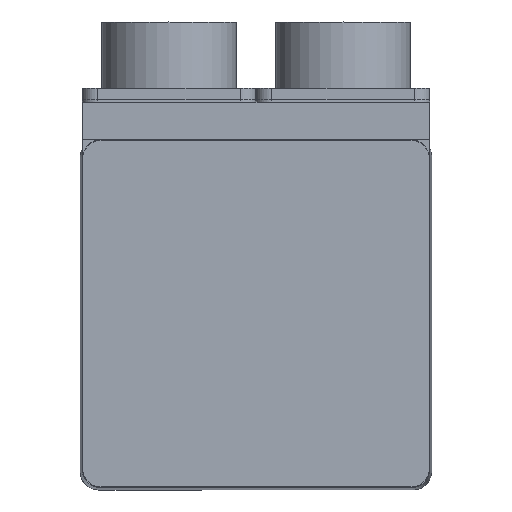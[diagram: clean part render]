
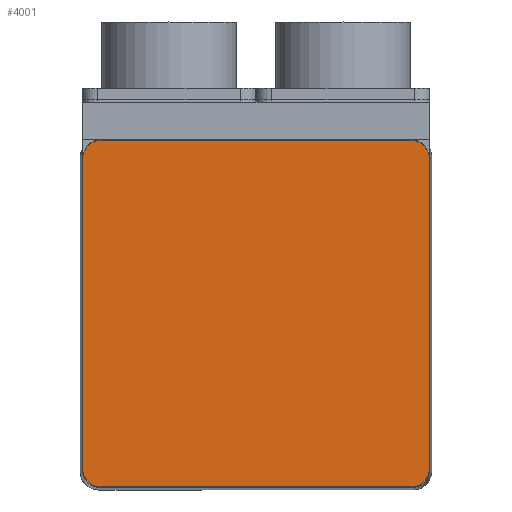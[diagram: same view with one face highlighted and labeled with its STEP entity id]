
A CAD part, top view. The second image highlights one B-rep face of the part: STEP entity #4001.
In plain terms, the highlighted planar face has unit normal (0, 0, 1).
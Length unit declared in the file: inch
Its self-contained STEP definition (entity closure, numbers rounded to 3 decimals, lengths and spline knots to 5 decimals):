
#3899=CARTESIAN_POINT('',(-1.0055,-1.125,3.136));
#3900=VERTEX_POINT('',#3899);
#3901=CARTESIAN_POINT('',(-1.125,-1.0055,3.136));
#3902=VERTEX_POINT('',#3901);
#3903=CARTESIAN_POINT('',(-1.0055,-1.0055,3.136));
#3904=DIRECTION('',(0.0,0.0,-1.));
#3905=DIRECTION('',(-0.707,-0.707,0.0));
#3906=AXIS2_PLACEMENT_3D('',#3903,#3904,#3905);
#3907=CIRCLE('',#3906,0.1195);
#3908=EDGE_CURVE('',#3900,#3902,#3907,.T.);
#3936=CARTESIAN_POINT('',(0.,0.,3.136));
#3937=DIRECTION('',(0.0,0.0,1.0));
#3938=DIRECTION('',(1.0,0.0,0.0));
#3939=AXIS2_PLACEMENT_3D('',#3936,#3937,#3938);
#3940=PLANE('',#3939);
#3941=ORIENTED_EDGE('',*,*,#3908,.F.);
#3942=CARTESIAN_POINT('',(1.0055,-1.125,3.136));
#3943=VERTEX_POINT('',#3942);
#3944=CARTESIAN_POINT('',(1.0055,-1.125,3.136));
#3945=DIRECTION('',(-1.0,0.0,0.0));
#3946=VECTOR('',#3945,2.011);
#3947=LINE('',#3944,#3946);
#3948=EDGE_CURVE('',#3943,#3900,#3947,.T.);
#3949=ORIENTED_EDGE('',*,*,#3948,.F.);
#3950=CARTESIAN_POINT('',(1.125,-1.0055,3.136));
#3951=VERTEX_POINT('',#3950);
#3952=CARTESIAN_POINT('',(1.0055,-1.0055,3.136));
#3953=DIRECTION('',(0.0,0.0,-1.));
#3954=DIRECTION('',(0.707,-0.707,0.0));
#3955=AXIS2_PLACEMENT_3D('',#3952,#3953,#3954);
#3956=CIRCLE('',#3955,0.1195);
#3957=EDGE_CURVE('',#3951,#3943,#3956,.T.);
#3958=ORIENTED_EDGE('',*,*,#3957,.F.);
#3959=CARTESIAN_POINT('',(1.125,1.0055,3.136));
#3960=VERTEX_POINT('',#3959);
#3961=CARTESIAN_POINT('',(1.125,1.0055,3.136));
#3962=DIRECTION('',(0.0,-1.0,0.0));
#3963=VECTOR('',#3962,2.011);
#3964=LINE('',#3961,#3963);
#3965=EDGE_CURVE('',#3960,#3951,#3964,.T.);
#3966=ORIENTED_EDGE('',*,*,#3965,.F.);
#3967=CARTESIAN_POINT('',(1.0055,1.125,3.136));
#3968=VERTEX_POINT('',#3967);
#3969=CARTESIAN_POINT('',(1.0055,1.0055,3.136));
#3970=DIRECTION('',(0.0,0.0,-1.));
#3971=DIRECTION('',(0.707,0.707,0.0));
#3972=AXIS2_PLACEMENT_3D('',#3969,#3970,#3971);
#3973=CIRCLE('',#3972,0.1195);
#3974=EDGE_CURVE('',#3968,#3960,#3973,.T.);
#3975=ORIENTED_EDGE('',*,*,#3974,.F.);
#3976=CARTESIAN_POINT('',(-1.0055,1.125,3.136));
#3977=VERTEX_POINT('',#3976);
#3978=CARTESIAN_POINT('',(-1.0055,1.125,3.136));
#3979=DIRECTION('',(1.0,0.0,0.0));
#3980=VECTOR('',#3979,2.011);
#3981=LINE('',#3978,#3980);
#3982=EDGE_CURVE('',#3977,#3968,#3981,.T.);
#3983=ORIENTED_EDGE('',*,*,#3982,.F.);
#3984=CARTESIAN_POINT('',(-1.125,1.0055,3.136));
#3985=VERTEX_POINT('',#3984);
#3986=CARTESIAN_POINT('',(-1.0055,1.0055,3.136));
#3987=DIRECTION('',(0.0,0.0,-1.));
#3988=DIRECTION('',(-0.707,0.707,0.0));
#3989=AXIS2_PLACEMENT_3D('',#3986,#3987,#3988);
#3990=CIRCLE('',#3989,0.1195);
#3991=EDGE_CURVE('',#3985,#3977,#3990,.T.);
#3992=ORIENTED_EDGE('',*,*,#3991,.F.);
#3993=CARTESIAN_POINT('',(-1.125,-1.0055,3.136));
#3994=DIRECTION('',(0.0,1.0,0.0));
#3995=VECTOR('',#3994,2.011);
#3996=LINE('',#3993,#3995);
#3997=EDGE_CURVE('',#3902,#3985,#3996,.T.);
#3998=ORIENTED_EDGE('',*,*,#3997,.F.);
#3999=EDGE_LOOP('',(#3941,#3949,#3958,#3966,#3975,#3983,#3992,#3998));
#4000=FACE_OUTER_BOUND('',#3999,.T.);
#4001=ADVANCED_FACE('',(#4000),#3940,.T.);
